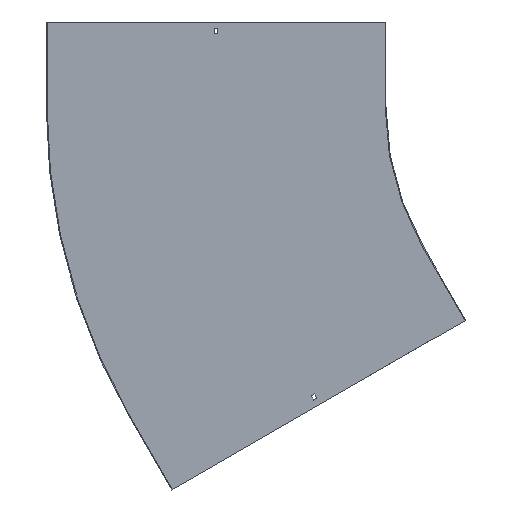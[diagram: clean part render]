
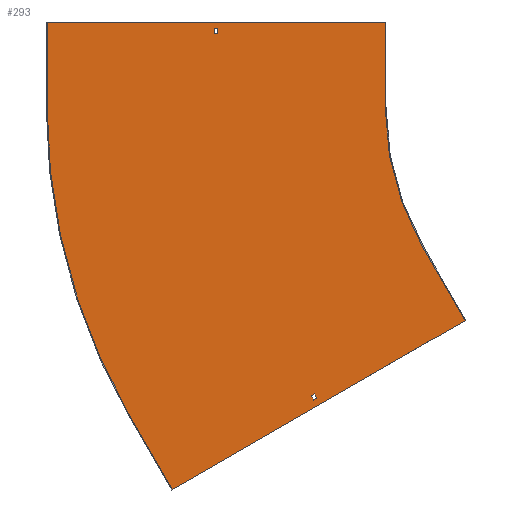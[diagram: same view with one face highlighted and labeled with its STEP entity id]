
A CAD part, front view. The second image highlights one B-rep face of the part: STEP entity #293.
In plain terms, the highlighted planar face has unit normal (0, -1, 0).
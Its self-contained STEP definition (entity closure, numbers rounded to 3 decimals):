
#18 = EDGE_CURVE ( 'NONE', #220, #857, #65, .T. ) ;
#23 = CARTESIAN_POINT ( 'NONE',  ( -690.006, -1.5, -398.375 ) ) ;
#31 = EDGE_CURVE ( 'NONE', #565, #129, #472, .T. ) ;
#33 = VERTEX_POINT ( 'NONE', #409 ) ;
#37 = VERTEX_POINT ( 'NONE', #275 ) ;
#55 = EDGE_CURVE ( 'NONE', #817, #205, #113, .T. ) ;
#65 = LINE ( 'NONE', #337, #839 ) ;
#75 = VECTOR ( 'NONE', #845, 1000. ) ;
#78 = EDGE_CURVE ( 'NONE', #771, #486, #730, .T. ) ;
#92 = EDGE_CURVE ( 'NONE', #99, #565, #398, .T. ) ;
#99 = VERTEX_POINT ( 'NONE', #405 ) ;
#103 = ORIENTED_EDGE ( 'NONE', *, *, #569, .F. ) ;
#105 = LINE ( 'NONE', #725, #123 ) ;
#113 = LINE ( 'NONE', #334, #254 ) ;
#121 = CARTESIAN_POINT ( 'NONE',  ( 0., -1.5, 138. ) ) ;
#123 = VECTOR ( 'NONE', #312, 1000. ) ;
#126 = FACE_OUTER_BOUND ( 'NONE', #666, .T. ) ;
#128 = LINE ( 'NONE', #669, #298 ) ;
#129 = VERTEX_POINT ( 'NONE', #320 ) ;
#134 = CARTESIAN_POINT ( 'NONE',  ( -695.635, -1.5, -401.625 ) ) ;
#138 = DIRECTION ( 'NONE',  ( 0.866, 0., 0.5 ) ) ;
#143 = DIRECTION ( 'NONE',  ( 0., 0., -1. ) ) ;
#145 = ORIENTED_EDGE ( 'NONE', *, *, #282, .F. ) ;
#154 = CARTESIAN_POINT ( 'NONE',  ( -500., -1.5, 150. ) ) ;
#159 = LINE ( 'NONE', #550, #627 ) ;
#160 = CARTESIAN_POINT ( 'NONE',  ( -803.25, -1.5, 138. ) ) ;
#191 = CARTESIAN_POINT ( 'NONE',  ( -1101.5, -1.5, 150. ) ) ;
#205 = VERTEX_POINT ( 'NONE', #709 ) ;
#210 = ORIENTED_EDGE ( 'NONE', *, *, #31, .F. ) ;
#211 = EDGE_CURVE ( 'NONE', #205, #762, #105, .T. ) ;
#214 = CARTESIAN_POINT ( 'NONE',  ( -626.635, -1.5, -521.137 ) ) ;
#220 = VERTEX_POINT ( 'NONE', #307 ) ;
#233 = DIRECTION ( 'NONE',  ( -0.5, 0., 0.866 ) ) ;
#234 = DIRECTION ( 'NONE',  ( 0.5, 0., -0.866 ) ) ;
#237 = ORIENTED_EDGE ( 'NONE', *, *, #277, .T. ) ;
#251 = DIRECTION ( 'NONE',  ( 0., 0., -1. ) ) ;
#254 = VECTOR ( 'NONE', #658, 1000. ) ;
#257 = DIRECTION ( 'NONE',  ( 0., -1., 0. ) ) ;
#260 = LINE ( 'NONE', #848, #683 ) ;
#266 = ORIENTED_EDGE ( 'NONE', *, *, #78, .F. ) ;
#275 = CARTESIAN_POINT ( 'NONE',  ( -358.013, -1.5, -379.904 ) ) ;
#277 = EDGE_CURVE ( 'NONE', #33, #817, #459, .T. ) ;
#281 = DIRECTION ( 'NONE',  ( 0., 0., -1. ) ) ;
#282 = EDGE_CURVE ( 'NONE', #322, #771, #260, .T. ) ;
#285 = CARTESIAN_POINT ( 'NONE',  ( -356.714, -1.5, -379.154 ) ) ;
#293 = ADVANCED_FACE ( 'NONE', ( #517, #126, #450 ), #643, .T. ) ;
#298 = VECTOR ( 'NONE', #673, 1000. ) ;
#303 = LINE ( 'NONE', #23, #613 ) ;
#307 = CARTESIAN_POINT ( 'NONE',  ( -877.628, -1.5, -679.904 ) ) ;
#308 = AXIS2_PLACEMENT_3D ( 'NONE', #773, #257, #251 ) ;
#309 = VECTOR ( 'NONE', #331, 1000. ) ;
#312 = DIRECTION ( 'NONE',  ( 0., 0., 1. ) ) ;
#320 = CARTESIAN_POINT ( 'NONE',  ( -621.006, -1.5, -517.887 ) ) ;
#322 = VERTEX_POINT ( 'NONE', #466 ) ;
#331 = DIRECTION ( 'NONE',  ( -0.866, 0., -0.5 ) ) ;
#334 = CARTESIAN_POINT ( 'NONE',  ( 0., -1.5, 129. ) ) ;
#337 = CARTESIAN_POINT ( 'NONE',  ( -877.628, -1.5, -679.904 ) ) ;
#349 = ORIENTED_EDGE ( 'NONE', *, *, #679, .F. ) ;
#361 = ORIENTED_EDGE ( 'NONE', *, *, #559, .F. ) ;
#370 = EDGE_LOOP ( 'NONE', ( #424, #210, #554, #361 ) ) ;
#373 = ORIENTED_EDGE ( 'NONE', *, *, #211, .T. ) ;
#382 = DIRECTION ( 'NONE',  ( 0., 0., -1. ) ) ;
#398 = LINE ( 'NONE', #134, #811 ) ;
#405 = CARTESIAN_POINT ( 'NONE',  ( -631.135, -1.5, -513.342 ) ) ;
#409 = CARTESIAN_POINT ( 'NONE',  ( -796.75, -1.5, 138. ) ) ;
#411 = AXIS2_PLACEMENT_3D ( 'NONE', #738, #475, #143 ) ;
#416 = CARTESIAN_POINT ( 'NONE',  ( -433.013, -1.5, -250. ) ) ;
#424 = ORIENTED_EDGE ( 'NONE', *, *, #435, .F. ) ;
#426 = DIRECTION ( 'NONE',  ( 0., 0., -1. ) ) ;
#428 = ORIENTED_EDGE ( 'NONE', *, *, #516, .F. ) ;
#435 = EDGE_CURVE ( 'NONE', #129, #438, #303, .T. ) ;
#438 = VERTEX_POINT ( 'NONE', #836 ) ;
#447 = VECTOR ( 'NONE', #718, 1000. ) ;
#450 = FACE_BOUND ( 'NONE', #457, .T. ) ;
#457 = EDGE_LOOP ( 'NONE', ( #701, #237, #603, #373 ) ) ;
#459 = LINE ( 'NONE', #859, #597 ) ;
#466 = CARTESIAN_POINT ( 'NONE',  ( -1100., -1.5, 0. ) ) ;
#472 = LINE ( 'NONE', #739, #724 ) ;
#475 = DIRECTION ( 'NONE',  ( 0., -1., 0. ) ) ;
#478 = LINE ( 'NONE', #285, #309 ) ;
#483 = EDGE_CURVE ( 'NONE', #690, #37, #159, .T. ) ;
#486 = VERTEX_POINT ( 'NONE', #769 ) ;
#513 = CARTESIAN_POINT ( 'NONE',  ( -952.628, -1.5, -550. ) ) ;
#514 = VECTOR ( 'NONE', #426, 1000. ) ;
#516 = EDGE_CURVE ( 'NONE', #486, #543, #616, .T. ) ;
#517 = FACE_BOUND ( 'NONE', #370, .T. ) ;
#518 = LINE ( 'NONE', #121, #75 ) ;
#523 = DIRECTION ( 'NONE',  ( 0., 0., 1. ) ) ;
#543 = VERTEX_POINT ( 'NONE', #810 ) ;
#544 = CARTESIAN_POINT ( 'NONE',  ( 0., -1.5, 0. ) ) ;
#550 = CARTESIAN_POINT ( 'NONE',  ( -433.013, -1.5, -250. ) ) ;
#554 = ORIENTED_EDGE ( 'NONE', *, *, #92, .F. ) ;
#559 = EDGE_CURVE ( 'NONE', #438, #99, #128, .T. ) ;
#565 = VERTEX_POINT ( 'NONE', #214 ) ;
#569 = EDGE_CURVE ( 'NONE', #37, #220, #478, .T. ) ;
#571 = ORIENTED_EDGE ( 'NONE', *, *, #662, .F. ) ;
#584 = DIRECTION ( 'NONE',  ( 0.5, 0., -0.866 ) ) ;
#597 = VECTOR ( 'NONE', #382, 1000. ) ;
#598 = DIRECTION ( 'NONE',  ( -0.5, 0., 0.866 ) ) ;
#603 = ORIENTED_EDGE ( 'NONE', *, *, #55, .T. ) ;
#611 = DIRECTION ( 'NONE',  ( 0., 1., 0. ) ) ;
#613 = VECTOR ( 'NONE', #233, 1000. ) ;
#616 = LINE ( 'NONE', #154, #514 ) ;
#624 = CARTESIAN_POINT ( 'NONE',  ( -1100., -1.5, 150. ) ) ;
#627 = VECTOR ( 'NONE', #234, 1000. ) ;
#643 = PLANE ( 'NONE',  #308 ) ;
#647 = CIRCLE ( 'NONE', #763, 1100. ) ;
#658 = DIRECTION ( 'NONE',  ( -1., 0., 0. ) ) ;
#662 = EDGE_CURVE ( 'NONE', #543, #690, #782, .T. ) ;
#666 = EDGE_LOOP ( 'NONE', ( #266, #145, #349, #784, #103, #851, #571, #428 ) ) ;
#669 = CARTESIAN_POINT ( 'NONE',  ( 64.5, -1.5, -111.717 ) ) ;
#673 = DIRECTION ( 'NONE',  ( -0.866, 0., -0.5 ) ) ;
#679 = EDGE_CURVE ( 'NONE', #857, #322, #647, .T. ) ;
#683 = VECTOR ( 'NONE', #523, 1000. ) ;
#690 = VERTEX_POINT ( 'NONE', #416 ) ;
#701 = ORIENTED_EDGE ( 'NONE', *, *, #791, .T. ) ;
#709 = CARTESIAN_POINT ( 'NONE',  ( -803.25, -1.5, 129. ) ) ;
#710 = CARTESIAN_POINT ( 'NONE',  ( -796.75, -1.5, 129. ) ) ;
#718 = DIRECTION ( 'NONE',  ( 1., 0., 0. ) ) ;
#724 = VECTOR ( 'NONE', #138, 1000. ) ;
#725 = CARTESIAN_POINT ( 'NONE',  ( -803.25, -1.5, 0. ) ) ;
#730 = LINE ( 'NONE', #191, #447 ) ;
#738 = CARTESIAN_POINT ( 'NONE',  ( 0., -1.5, 0. ) ) ;
#739 = CARTESIAN_POINT ( 'NONE',  ( 69., -1.5, -119.512 ) ) ;
#762 = VERTEX_POINT ( 'NONE', #160 ) ;
#763 = AXIS2_PLACEMENT_3D ( 'NONE', #544, #611, #281 ) ;
#769 = CARTESIAN_POINT ( 'NONE',  ( -500., -1.5, 150. ) ) ;
#771 = VERTEX_POINT ( 'NONE', #624 ) ;
#773 = CARTESIAN_POINT ( 'NONE',  ( 0., -1.5, 0. ) ) ;
#782 = CIRCLE ( 'NONE', #411, 500. ) ;
#784 = ORIENTED_EDGE ( 'NONE', *, *, #18, .F. ) ;
#791 = EDGE_CURVE ( 'NONE', #762, #33, #518, .T. ) ;
#810 = CARTESIAN_POINT ( 'NONE',  ( -500., -1.5, 0. ) ) ;
#811 = VECTOR ( 'NONE', #584, 1000. ) ;
#817 = VERTEX_POINT ( 'NONE', #710 ) ;
#836 = CARTESIAN_POINT ( 'NONE',  ( -625.506, -1.5, -510.092 ) ) ;
#839 = VECTOR ( 'NONE', #598, 1000. ) ;
#845 = DIRECTION ( 'NONE',  ( 1., 0., 0. ) ) ;
#848 = CARTESIAN_POINT ( 'NONE',  ( -1100., -1.5, 0. ) ) ;
#851 = ORIENTED_EDGE ( 'NONE', *, *, #483, .F. ) ;
#857 = VERTEX_POINT ( 'NONE', #513 ) ;
#859 = CARTESIAN_POINT ( 'NONE',  ( -796.75, -1.5, 0. ) ) ;
